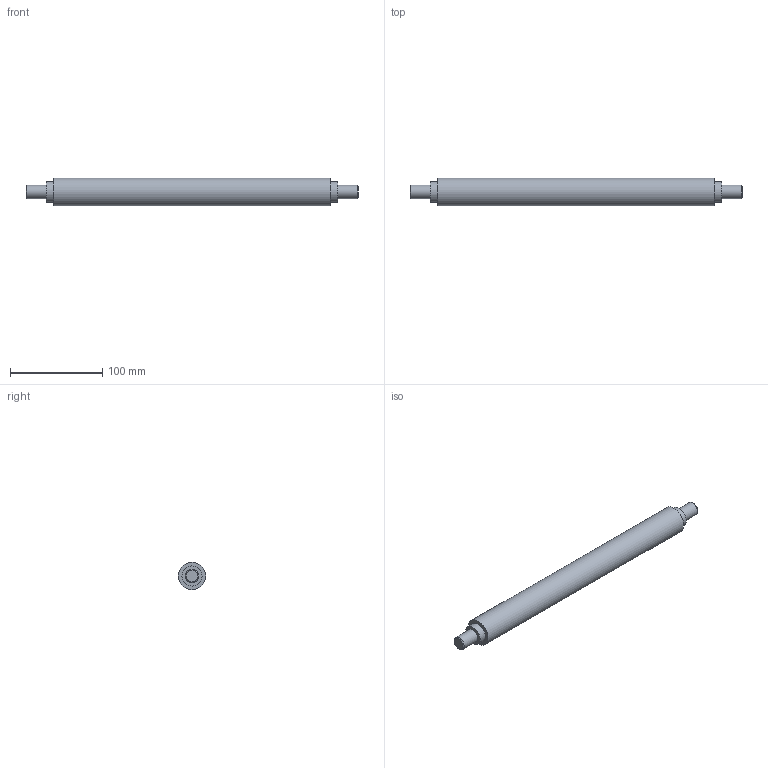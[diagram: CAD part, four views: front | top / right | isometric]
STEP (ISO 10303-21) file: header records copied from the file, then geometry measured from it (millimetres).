
FILE_DESCRIPTION(/* description */ ('ROLLER A'),/* implementation_level */ '2;1');
FILE_NAME(/* name */ 'C:\Users\Apardo\Documents\Proyectos\Dietrich\Proyecto 1\PLATE ROLLING MACHINE\STEP\1.9 rollerA.stp',/* time_stamp */ '2020-11-03T20:36:09-04:00',/* author */ ('Apardo'),/* organization */ ('13'),/* preprocessor_version */ 'ST-DEVELOPER v18',/* originating_system */ 'Autodesk Inventor 2020',/* authorisation */ '');
FILE_SCHEMA (('AUTOMOTIVE_DESIGN { 1 0 10303 214 3 1 1 }'));
Length unit declared in the file: millimetre
Products named in the file (1): rollerA
Bounding box: 360 x 30 x 30 mm (x, y, z)
Volume: 225870 mm3; surface area: 32809.5 mm2
Topology: 1 solids, 1 shells, 13 faces, 29 edges, 22 vertices
Faces by surface type: plane 6, cylinder 5, cone 2
Full cylindrical faces by diameter (mm): 15 x2, 22 x2, 30 x1
Entity records: 430 total; most frequent: DIRECTION 79, CARTESIAN_POINT 65, ORIENTED_EDGE 58, AXIS2_PLACEMENT_3D 36, EDGE_CURVE 29, CIRCLE 22, VERTEX_POINT 22, EDGE_LOOP 17
